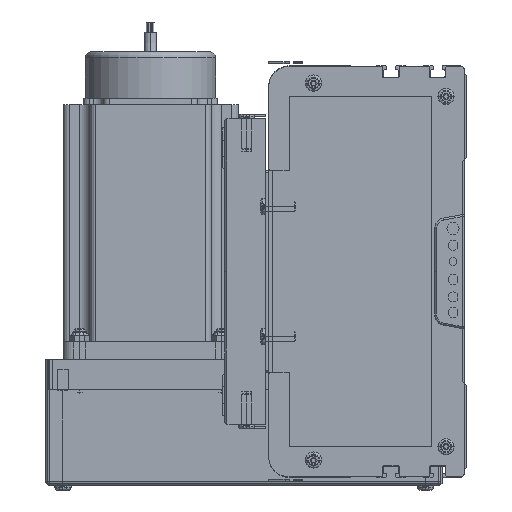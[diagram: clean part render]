
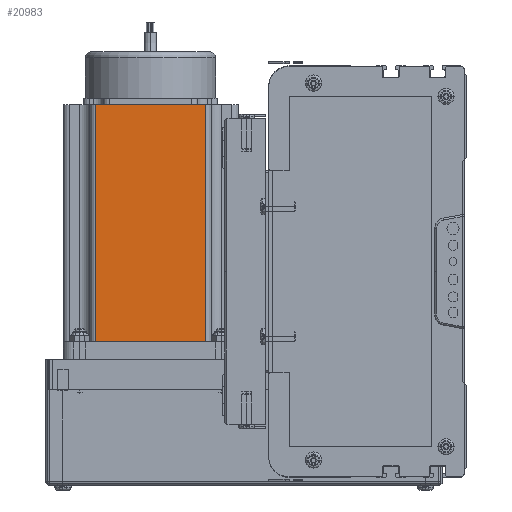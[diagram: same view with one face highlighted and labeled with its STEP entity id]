
A CAD part, left-side view. The second image highlights one B-rep face of the part: STEP entity #20983.
In plain terms, the highlighted planar face has unit normal (-1, 0, 0) as drawn and (0, -1, 0) by its records, which use the part's own axes.
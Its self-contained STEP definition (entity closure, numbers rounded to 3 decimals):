
#20391 = EDGE_CURVE ( 'NONE', #21036, #20926, #124332, .T. ) ;
#20762 = ORIENTED_EDGE ( 'NONE', *, *, #21010, .T. ) ;
#20925 = EDGE_LOOP ( 'NONE', ( #20762, #20987, #21038, #21046 ) ) ;
#20926 = VERTEX_POINT ( 'NONE', #128215 ) ;
#20929 = VERTEX_POINT ( 'NONE', #128212 ) ;
#20983 = ADVANCED_FACE ( 'NONE', ( #128179 ), #128189, .F. ) ;
#20987 = ORIENTED_EDGE ( 'NONE', *, *, #21052, .T. ) ;
#20989 = VERTEX_POINT ( 'NONE', #128166 ) ;
#21010 = EDGE_CURVE ( 'NONE', #20926, #20929, #128158, .T. ) ;
#21033 = EDGE_CURVE ( 'NONE', #21036, #20989, #128305, .T. ) ;
#21036 = VERTEX_POINT ( 'NONE', #128296 ) ;
#21038 = ORIENTED_EDGE ( 'NONE', *, *, #21033, .F. ) ;
#21046 = ORIENTED_EDGE ( 'NONE', *, *, #20391, .T. ) ;
#21052 = EDGE_CURVE ( 'NONE', #20929, #20989, #128420, .T. ) ;
#124327 = DIRECTION ( 'NONE',  ( 0., 0., -1. ) ) ;
#124328 = VECTOR ( 'NONE', #124327, 1000. ) ;
#124330 = CARTESIAN_POINT ( 'NONE',  ( 16.16, 0., 116.5 ) ) ;
#124332 = LINE ( 'NONE', #124330, #124328 ) ;
#128151 = DIRECTION ( 'NONE',  ( 1., 0., 0. ) ) ;
#128156 = VECTOR ( 'NONE', #128151, 1000. ) ;
#128157 = CARTESIAN_POINT ( 'NONE',  ( 0., 0., 0. ) ) ;
#128158 = LINE ( 'NONE', #128157, #128156 ) ;
#128164 = DIRECTION ( 'NONE',  ( 0., 0., 1. ) ) ;
#128166 = CARTESIAN_POINT ( 'NONE',  ( 69.74, 0., 116.5 ) ) ;
#128168 = DIRECTION ( 'NONE',  ( 0., 1., 0. ) ) ;
#128169 = CARTESIAN_POINT ( 'NONE',  ( 0., 0., 116.5 ) ) ;
#128179 = FACE_OUTER_BOUND ( 'NONE', #20925, .T. ) ;
#128189 = PLANE ( 'NONE',  #128207 ) ;
#128207 = AXIS2_PLACEMENT_3D ( 'NONE', #128169, #128168, #128164 ) ;
#128212 = CARTESIAN_POINT ( 'NONE',  ( 69.74, 0., 0. ) ) ;
#128215 = CARTESIAN_POINT ( 'NONE',  ( 16.16, 0., 0. ) ) ;
#128293 = DIRECTION ( 'NONE',  ( 1., 0., 0. ) ) ;
#128294 = VECTOR ( 'NONE', #128293, 1000. ) ;
#128295 = CARTESIAN_POINT ( 'NONE',  ( 0., 0., 116.5 ) ) ;
#128296 = CARTESIAN_POINT ( 'NONE',  ( 16.16, 0., 116.5 ) ) ;
#128305 = LINE ( 'NONE', #128295, #128294 ) ;
#128417 = DIRECTION ( 'NONE',  ( 0., 0., 1. ) ) ;
#128418 = VECTOR ( 'NONE', #128417, 1000. ) ;
#128419 = CARTESIAN_POINT ( 'NONE',  ( 69.74, 0., 116.5 ) ) ;
#128420 = LINE ( 'NONE', #128419, #128418 ) ;
